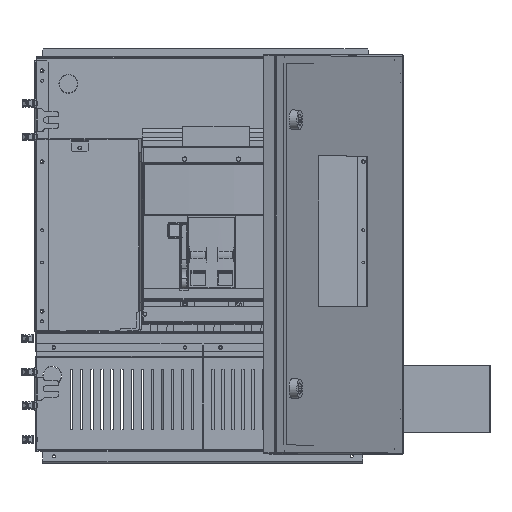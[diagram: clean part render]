
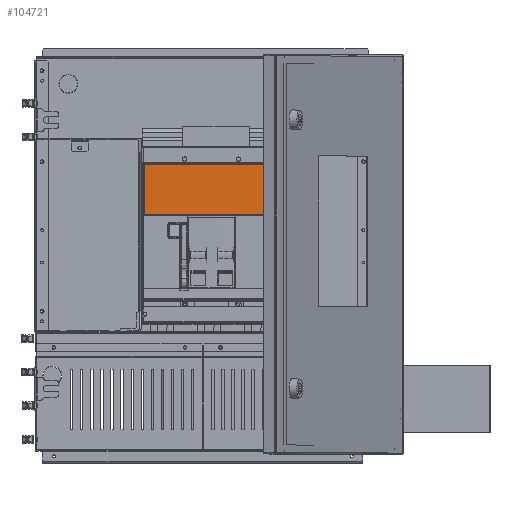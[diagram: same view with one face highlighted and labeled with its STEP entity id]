
A CAD part, top view. The second image highlights one B-rep face of the part: STEP entity #104721.
In plain terms, the highlighted cylindrical face has radius 2382 mm (diameter 4764 mm), a partial arc.
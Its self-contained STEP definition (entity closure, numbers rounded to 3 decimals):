
#94216=CARTESIAN_POINT(' ',(-101.084,181.854,159.2));
#94217=VERTEX_POINT(' ',#94216);
#94421=CARTESIAN_POINT(' ',(100.223,181.89,159.2));
#94422=VERTEX_POINT(' ',#94421);
#94446=CARTESIAN_POINT(' ',(0.001,-2198.177,159.2));
#94451=DIRECTION(' ',(0.,0.,1.));
#94456=DIRECTION(' ',(0.042,0.999,0.));
#94461=AXIS2_PLACEMENT_3D(' ',#94446,#94451,#94456);
#94466=CIRCLE('',#94461,2382.177);
#94471=EDGE_CURVE(' ',#94422,#94217,#94466,.T.);
#104511=CARTESIAN_POINT(' ',(-101.084,181.854,236.3));
#104516=DIRECTION(' ',(0.,0.,-1.));
#104521=VECTOR(' ',#104516,1.);
#104526=LINE('',#104511,#104521);
#104531=CARTESIAN_POINT(' ',(-101.084,181.854,236.3));
#104532=VERTEX_POINT(' ',#104531);
#104536=EDGE_CURVE(' ',#104532,#94217,#104526,.T.);
#104606=CARTESIAN_POINT(' ',(0.,-2198.,197.75));
#104611=DIRECTION(' ',(0.,0.,1.));
#104616=DIRECTION(' ',(0.042,0.999,-0.));
#104621=AXIS2_PLACEMENT_3D(' ',#104606,#104611,#104616);
#104626=CYLINDRICAL_SURFACE(' ',#104621,2382.);
#104631=CARTESIAN_POINT(' ',(100.223,181.89,236.3));
#104636=DIRECTION(' ',(0.,0.,-1.));
#104641=VECTOR(' ',#104636,1.);
#104646=LINE('',#104631,#104641);
#104651=CARTESIAN_POINT(' ',(100.223,181.89,236.3));
#104652=VERTEX_POINT(' ',#104651);
#104656=EDGE_CURVE(' ',#104652,#94422,#104646,.T.);
#104661=ORIENTED_EDGE(' ',*,*,#104656,.T.);
#104666=ORIENTED_EDGE(' ',*,*,#94471,.T.);
#104671=ORIENTED_EDGE(' ',*,*,#104536,.F.);
#104676=CARTESIAN_POINT(' ',(0.001,-2198.177,236.3));
#104681=DIRECTION(' ',(0.,0.,1.));
#104686=DIRECTION(' ',(0.042,0.999,0.));
#104691=AXIS2_PLACEMENT_3D(' ',#104676,#104681,#104686);
#104696=CIRCLE('',#104691,2382.177);
#104701=EDGE_CURVE(' ',#104652,#104532,#104696,.T.);
#104706=ORIENTED_EDGE(' ',*,*,#104701,.F.);
#104711=EDGE_LOOP(' ',(#104661,#104666,#104671,#104706));
#104716=FACE_OUTER_BOUND(' ',#104711,.T.);
#104721=ADVANCED_FACE('NONE',(#104716),#104626,.T.);
